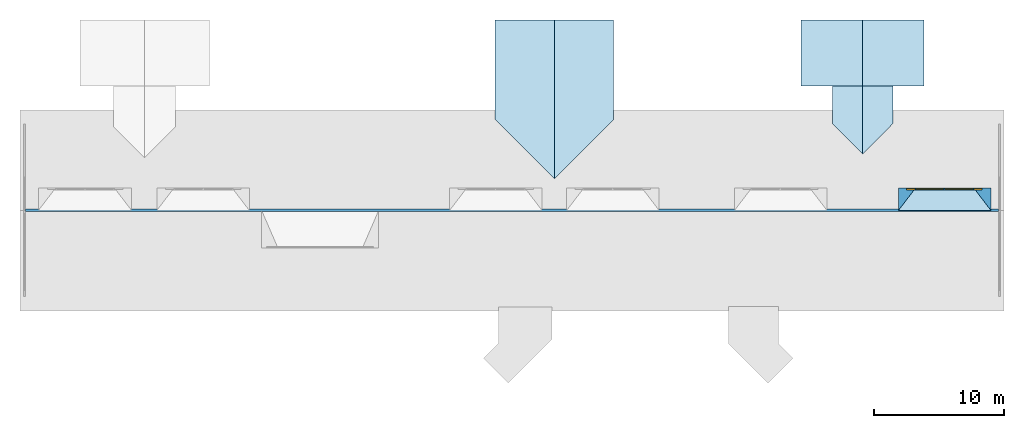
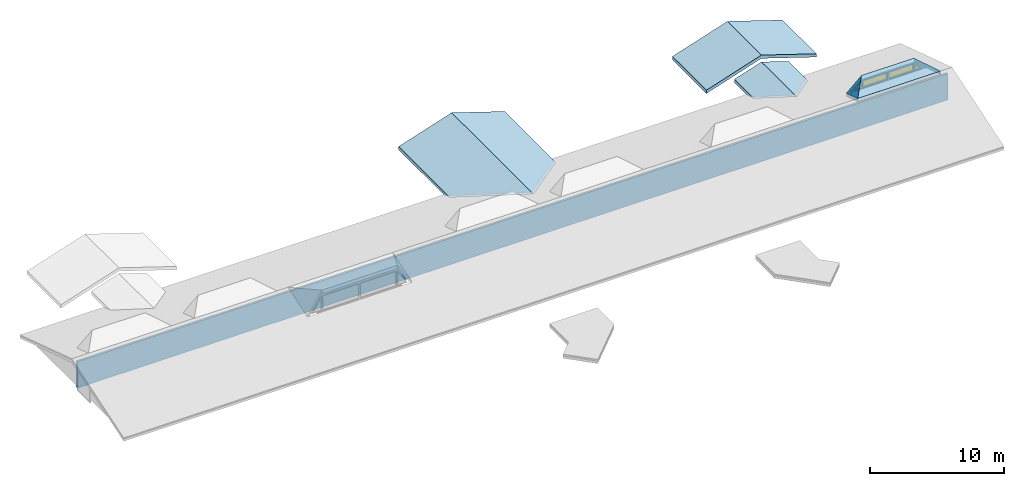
# One storey, part 5 of 7: 6 roofs, 4 windows, 2 walls, 4 openings.
"""IFC2X3 building model written with IfcOpenShell, lengths in millimetres."""

from ifc_helpers import new_model, entity, si_unit, converted_unit, derived_unit, money_unit, direction, frame, origin_with_axes, place, context, subcontext, project, spatial, open_shell, faceted_brep, surface_model, source, transform, mapped, material, type_object, element, fill, save


model = new_model("IFC2X3")

# Units and contexts
model_context = context("Model", 3, precision=0.01, world=origin_with_axes(), true_north=direction((0.0, 1.0)))
body_context = subcontext(model_context, "Body", "Model", "MODEL_VIEW")
ifc_project = project(units=[si_unit("LENGTHUNIT", "METRE", prefix="MILLI"), si_unit("AREAUNIT", "SQUARE_METRE"), si_unit("VOLUMEUNIT", "CUBIC_METRE"), converted_unit("PLANEANGLEUNIT", "DEGREE", entity("IfcPlaneAngleMeasure", 0.0174532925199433), si_unit("PLANEANGLEUNIT", "RADIAN"), dimensions=[0, 0, 0, 0, 0, 0, 0]), money_unit("USD"), converted_unit("TIMEUNIT", "Year", entity("IfcTimeMeasure", 31557600.0), si_unit("TIMEUNIT", "SECOND"), dimensions=[0, 0, 1, 0, 0, 0, 0]), si_unit("MASSUNIT", "GRAM", prefix="KILO"), si_unit("THERMODYNAMICTEMPERATUREUNIT", "DEGREE_CELSIUS"), si_unit("LUMINOUSINTENSITYUNIT", "LUMEN"), si_unit("ENERGYUNIT", "JOULE", prefix="MEGA"), derived_unit("THERMALCONDUCTANCEUNIT", [(si_unit("POWERUNIT", "WATT"), 1), (si_unit("LENGTHUNIT", "METRE"), -1), (si_unit("THERMODYNAMICTEMPERATUREUNIT", "KELVIN"), -1)]), derived_unit("SPECIFICHEATCAPACITYUNIT", [(si_unit("ENERGYUNIT", "JOULE"), 1), (si_unit("MASSUNIT", "GRAM", prefix="KILO"), -1), (si_unit("THERMODYNAMICTEMPERATUREUNIT", "KELVIN"), -1)]), derived_unit("MASSDENSITYUNIT", [(si_unit("MASSUNIT", "GRAM", prefix="KILO"), 1), (si_unit("VOLUMEUNIT", "CUBIC_METRE"), -1)])], contexts=[model_context])

# Site, building, storey
site_placement = place(None, origin_with_axes())
site = spatial("IfcSite", under=ifc_project, at=site_placement, Name="Site", CompositionType="ELEMENT")
building_placement = place(site_placement, origin_with_axes())
building = spatial("IfcBuilding", under=site, at=building_placement, Name="Building", CompositionType="ELEMENT")
storey_placement = place(building_placement, frame((0.0, 0.0, 5900.0), z_axis=(0.0, 0.0, 1.0), x_axis=(1.0, 0.0, 0.0)))
storey = spatial("IfcBuildingStorey", under=building, at=storey_placement, Name="TAK", CompositionType="ELEMENT", Elevation=5900.0)

# Wall
ifc_material_1 = material(Name="GENERIC - INTERNAL FILLER")
wall_type_1 = type_object("IfcWallType", Name="GENERIC - INTERNAL FILLER 200", PredefinedType="NOTDEFINED")
wall_1_placement = place(storey_placement, frame((-2400.260572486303, 14600.0, -299.9999999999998), z_axis=(0.0, 0.0, 1.0), x_axis=(1.0, 0.0, 0.0)))
element("IfcWall", 1, at=wall_1_placement, inside=storey, type_object=wall_type_1, material=ifc_material_1, Name="SW - 001", context=body_context, shape_type="Brep", body=[
    faceted_brep([(74790.2605724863, 0.0, 0.0), (72840.2605724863, 0.0, 0.0), (72840.2605724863, 0.0, 2400.0), (74790.26057248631, 0.0, 2400.0), (72660.2605724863, -0.1250236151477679, 0.0), (72840.2605724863, -0.1250236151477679, 0.0), (74790.2605724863, -199.9999999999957, 0.0), (0.0, -199.9999999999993, 0.0), (0.0, 0.0, 0.0), (2310.2605724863, 0.0, 0.0), (2310.260572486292, -0.1250236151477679, 0.0), (2490.260572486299, -0.1250236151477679, 0.0), (2490.260572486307, 0.0, 0.0), (6810.260572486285, 0.0, 0.0), (6810.260572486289, -0.1250236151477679, 0.0), (6990.260572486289, -0.1250236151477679, 0.0), (6990.260572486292, 0.0, 0.0), (11310.26057248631, 0.0, 0.0), (11310.2605724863, -0.1250236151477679, 0.0), (11490.2605724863, -0.1250236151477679, 0.0), (11490.26057248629, 0.0, 0.0), (15810.2605724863, 0.0, 0.0), (15810.2605724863, -0.1250236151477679, 0.0), (15990.2605724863, -0.1250236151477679, 0.0), (15990.26057248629, 0.0, 0.0), (20310.26057248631, 0.0, 0.0), (20310.26057248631, -0.1250236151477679, 0.0), (20490.26057248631, -0.1250236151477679, 0.0), (20490.26057248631, 0.0, 0.0), (29310.2605724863, 0.0, 0.0), (29310.2605724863, -0.1250236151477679, 0.0), (29490.2605724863, -0.1250236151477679, 0.0), (29490.26057248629, 0.0, 0.0), (33810.2605724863, 0.0, 0.0), (33810.2605724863, -0.1250236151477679, 0.0), (33990.2605724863, -0.1250236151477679, 0.0), (33990.2605724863, 0.0, 0.0), (38310.2605724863, 0.0, 0.0), (38310.2605724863, -0.1250236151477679, 0.0), (38490.2605724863, -0.1250236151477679, 0.0), (38490.2605724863, 0.0, 0.0), (42810.2605724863, 0.0, 0.0), (42810.2605724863, -0.1250236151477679, 0.0), (42990.2605724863, -0.1250236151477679, 0.0), (42990.2605724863, 0.0, 0.0), (47310.26057248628, 0.0, 0.0), (47310.26057248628, -0.1250236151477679, 0.0), (47490.26057248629, -0.1250236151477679, 0.0), (47490.26057248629, 0.0, 0.0), (51660.26057248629, 0.0, 0.0), (51660.26057248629, -0.1250236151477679, 0.0), (51840.2605724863, -0.1250236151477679, 0.0), (51840.2605724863, 0.0, 0.0), (55860.26057248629, 0.0, 0.0), (55860.26057248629, -0.1250236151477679, 0.0), (56040.2605724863, -0.1250236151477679, 0.0), (56040.2605724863, 0.0, 0.0), (60060.2605724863, 0.0, 0.0), (60060.2605724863, -0.1250236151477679, 0.0), (60240.2605724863, -0.1250236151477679, 0.0), (60240.2605724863, 0.0, 0.0), (64260.26057248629, 0.0, 0.0), (64260.26057248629, -0.1250236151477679, 0.0), (64440.2605724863, -0.1250236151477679, 0.0), (64440.2605724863, 0.0, 0.0), (68460.26057248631, 0.0, 0.0), (68460.26057248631, -0.1250236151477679, 0.0), (68640.26057248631, -0.1250236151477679, 0.0), (68640.26057248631, 0.0, 0.0), (72660.2605724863, 0.0, 0.0), (72840.2605724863, -0.1250236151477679, 2400.0), (72660.2605724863, -0.1250236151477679, 2400.0), (72660.2605724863, 0.0, 2400.0), (68640.26057248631, 0.0, 2400.0), (68640.26057248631, -0.1250236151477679, 2400.0), (68460.26057248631, -0.1250236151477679, 2400.0), (68460.26057248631, 0.0, 2400.0), (64440.2605724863, 0.0, 2400.0), (64440.2605724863, -0.1250236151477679, 2400.0), (64260.26057248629, -0.1250236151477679, 2400.0), (64260.26057248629, 0.0, 2400.0), (60240.2605724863, 0.0, 2400.0), (60240.2605724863, -0.1250236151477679, 2400.0), (60060.2605724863, -0.1250236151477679, 2400.0), (60060.2605724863, 0.0, 2400.0), (56040.2605724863, 0.0, 2400.0), (56040.2605724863, -0.1250236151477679, 2400.0), (55860.26057248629, -0.1250236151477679, 2400.0), (55860.26057248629, 0.0, 2400.0), (51840.2605724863, 0.0, 2400.0), (51840.2605724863, -0.1250236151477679, 2400.0), (51660.26057248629, -0.1250236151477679, 2400.0), (51660.26057248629, 0.0, 2400.0), (47490.26057248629, 0.0, 2400.0), (47490.26057248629, -0.1250236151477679, 2400.0), (47310.26057248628, -0.1250236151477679, 2400.0), (47310.26057248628, 0.0, 2400.0), (42990.2605724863, 0.0, 2400.0), (42990.2605724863, -0.1250236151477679, 2400.0), (42810.2605724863, -0.1250236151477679, 2400.0), (42810.2605724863, 0.0, 2400.0), (38490.2605724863, 0.0, 2400.0), (38490.2605724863, -0.1250236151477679, 2400.0), (38310.2605724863, -0.1250236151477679, 2400.0), (38310.2605724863, 0.0, 2400.0), (33990.2605724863, 0.0, 2400.0), (33990.2605724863, -0.1250236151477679, 2400.0), (33810.2605724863, -0.1250236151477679, 2400.0), (33810.2605724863, 0.0, 2400.0), (29490.2605724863, 0.0, 2400.0), (29490.2605724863, -0.1250236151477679, 2400.0), (29310.2605724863, -0.1250236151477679, 2400.0), (29310.2605724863, 0.0, 2400.0), (20490.26057248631, 0.0, 2400.0), (20490.26057248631, -0.1250236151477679, 2400.0), (20310.26057248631, -0.1250236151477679, 2400.0), (20310.26057248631, 0.0, 2400.0), (15990.2605724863, 0.0, 2400.0), (15990.2605724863, -0.1250236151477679, 2400.0), (15810.2605724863, -0.1250236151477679, 2400.0), (15810.2605724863, 0.0, 2400.0), (11490.2605724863, 0.0, 2400.0), (11490.2605724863, -0.1250236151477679, 2400.0), (11310.2605724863, -0.1250236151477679, 2400.0), (11310.2605724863, 0.0, 2400.0), (6990.260572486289, 0.0, 2400.0), (6990.260572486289, -0.1250236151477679, 2400.0), (6810.260572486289, -0.1250236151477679, 2400.0), (6810.260572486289, 0.0, 2400.0), (2490.260572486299, 0.0, 2400.0), (2490.260572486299, -0.1250236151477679, 2400.0), (2310.260572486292, -0.1250236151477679, 2400.0), (2310.260572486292, 0.0, 2400.0), (0.0, 0.0, 2400.0), (0.0, -199.9999999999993, 2400.0), (74790.26057248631, -199.9999999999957, 2400.0)], [[[0, 1, 2, 3]], [[4, 5, 1, 0, 6, 7, 8, 9, 10, 11, 12, 13, 14, 15, 16, 17, 18, 19, 20, 21, 22, 23, 24, 25, 26, 27, 28, 29, 30, 31, 32, 33, 34, 35, 36, 37, 38, 39, 40, 41, 42, 43, 44, 45, 46, 47, 48, 49, 50, 51, 52, 53, 54, 55, 56, 57, 58, 59, 60, 61, 62, 63, 64, 65, 66, 67, 68, 69]], [[5, 70, 2, 1]], [[70, 71, 72, 73, 74, 75, 76, 77, 78, 79, 80, 81, 82, 83, 84, 85, 86, 87, 88, 89, 90, 91, 92, 93, 94, 95, 96, 97, 98, 99, 100, 101, 102, 103, 104, 105, 106, 107, 108, 109, 110, 111, 112, 113, 114, 115, 116, 117, 118, 119, 120, 121, 122, 123, 124, 125, 126, 127, 128, 129, 130, 131, 132, 133, 134, 135, 3, 2]], [[6, 0, 3, 135]], [[4, 71, 70, 5]], [[6, 135, 134, 7]], [[8, 7, 134, 133]], [[133, 132, 9, 8]], [[10, 9, 132, 131]], [[10, 131, 130, 11]], [[11, 130, 129, 12]], [[129, 128, 13, 12]], [[14, 13, 128, 127]], [[14, 127, 126, 15]], [[15, 126, 125, 16]], [[125, 124, 17, 16]], [[18, 17, 124, 123]], [[18, 123, 122, 19]], [[19, 122, 121, 20]], [[121, 120, 21, 20]], [[22, 21, 120, 119]], [[22, 119, 118, 23]], [[23, 118, 117, 24]], [[117, 116, 25, 24]], [[26, 25, 116, 115]], [[26, 115, 114, 27]], [[27, 114, 113, 28]], [[113, 112, 29, 28]], [[30, 29, 112, 111]], [[30, 111, 110, 31]], [[31, 110, 109, 32]], [[109, 108, 33, 32]], [[34, 33, 108, 107]], [[34, 107, 106, 35]], [[35, 106, 105, 36]], [[105, 104, 37, 36]], [[38, 37, 104, 103]], [[38, 103, 102, 39]], [[39, 102, 101, 40]], [[101, 100, 41, 40]], [[42, 41, 100, 99]], [[42, 99, 98, 43]], [[43, 98, 97, 44]], [[97, 96, 45, 44]], [[46, 45, 96, 95]], [[46, 95, 94, 47]], [[47, 94, 93, 48]], [[93, 92, 49, 48]], [[50, 49, 92, 91]], [[50, 91, 90, 51]], [[51, 90, 89, 52]], [[89, 88, 53, 52]], [[54, 53, 88, 87]], [[54, 87, 86, 55]], [[55, 86, 85, 56]], [[85, 84, 57, 56]], [[58, 57, 84, 83]], [[58, 83, 82, 59]], [[59, 82, 81, 60]], [[81, 80, 61, 60]], [[62, 61, 80, 79]], [[62, 79, 78, 63]], [[63, 78, 77, 64]], [[77, 76, 65, 64]], [[66, 65, 76, 75]], [[66, 75, 74, 67]], [[67, 74, 73, 68]], [[73, 72, 69, 68]], [[4, 69, 72, 71]]]),
])

# Wall, openings, windows
ifc_material_2 = material(Name="GENERIC - STRUCTURAL")
wall_type_2 = type_object("IfcWallType", Name="GENERIC - STRUCTURAL 120", PredefinedType="NOTDEFINED")
wall_2_placement = place(storey_placement, frame((64983.0196285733, 16175.0, 1912.173367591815), z_axis=(0.0, 0.0, 1.0), x_axis=(1.0, 0.0, 0.0)))
wall_2 = element("IfcWall", 2, at=wall_2_placement, inside=storey, type_object=wall_type_2, material=ifc_material_2, Name="SW - 001", context=body_context, shape_type="Brep", body=[
    faceted_brep([(6533.960738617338, -119.9999920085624, 2.462064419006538e-05), (5627.866818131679, -120.000000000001, 809.7789812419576), (906.0939245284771, -120.000000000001, 809.7789812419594), (-1.107774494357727e-05, -119.9999959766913, 1.239533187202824e-05), (3166.980371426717, -119.9999920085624, 99.99999999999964), (1066.980371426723, -119.9999920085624, 99.99999999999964), (1066.980371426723, -119.9999920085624, 749.9999999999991), (3166.980371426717, -119.9999920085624, 749.9999999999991), (5416.980371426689, -120.000000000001, 749.9999999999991), (5416.980371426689, -120.000000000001, 99.99999999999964), (3316.980371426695, -120.000000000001, 99.99999999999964), (3316.980371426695, -120.000000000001, 749.9999999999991), (348.0179922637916, -120.000000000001, 99.99999999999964), (980.517992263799, -120.000000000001, 749.9999999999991), (981.0179922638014, -120.000000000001, 99.99999999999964), (5516.980371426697, -119.9999959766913, 99.99999999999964), (5517.4803714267, -119.9999959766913, 749.9999999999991), (6149.980371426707, -119.9999959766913, 99.99999999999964), (6490.37813879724, 0.0, 0.0), (5536.098724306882, 0.0, 852.8424798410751), (997.862018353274, 0.0, 852.8424798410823), (43.5826038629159, 0.0, 0.0), (3166.980371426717, 0.0, 99.99999999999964), (1066.980371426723, 0.0, 99.99999999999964), (1066.980371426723, 0.0, 749.9999999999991), (3166.980371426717, 0.0, 749.9999999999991), (5416.980371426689, 0.0, 749.9999999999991), (5416.980371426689, 0.0, 99.99999999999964), (3316.980371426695, 0.0, 99.99999999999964), (3316.980371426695, 0.0, 749.9999999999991), (980.517992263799, 0.0, 749.9999999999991), (348.0179922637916, 0.0, 99.99999999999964), (981.0179922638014, 0.0, 99.99999999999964), (5516.980371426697, 0.0, 99.99999999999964), (5517.4803714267, 0.0, 749.9999999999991), (6149.980371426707, 0.0, 99.99999999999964)], [[[0, 1, 2, 3], [4, 5, 6, 7], [8, 9, 10, 11], [12, 13, 14], [15, 16, 17]], [[1, 0, 18, 19]], [[1, 19, 20, 2]], [[20, 21, 3, 2]], [[18, 0, 3, 21]], [[4, 22, 23, 5]], [[5, 23, 24, 6]], [[6, 24, 25, 7]], [[7, 25, 22, 4]], [[9, 8, 26, 27]], [[10, 9, 27, 28]], [[11, 10, 28, 29]], [[8, 11, 29, 26]], [[30, 13, 12, 31]], [[32, 14, 13, 30]], [[31, 12, 14, 32]], [[33, 34, 16, 15]], [[34, 35, 17, 16]], [[35, 33, 15, 17]], [[19, 18, 21, 20], [24, 23, 22, 25], [26, 29, 28, 27], [30, 31, 32], [34, 33, 35]]]),
])
opening_1_placement = place(wall_2_placement, frame((2116.98037142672, 0.0, 99.99999999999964), z_axis=(0.0, 0.0, 1.0), x_axis=(1.0, 0.0, 0.0)))
opening_1 = element("IfcOpeningElement", 3, at=opening_1_placement, cuts=wall_2, Name="WD - 001", context=body_context, shape_type="Brep", body=[
    faceted_brep([(-1049.999999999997, -121.0000000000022, 649.9999999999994), (-1049.999999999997, -121.0000000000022, 0.0), (1049.999999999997, -121.0000000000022, 0.0), (1049.999999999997, -121.0000000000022, 649.9999999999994), (-1049.999999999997, 1.000000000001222, 649.9999999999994), (-1049.999999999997, 1.000000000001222, 0.0), (1049.999999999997, 1.000000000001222, 0.0), (1049.999999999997, 1.000000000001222, 649.9999999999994)], [[[0, 1, 2, 3]], [[4, 5, 1, 0]], [[5, 6, 2, 1]], [[6, 7, 3, 2]], [[7, 4, 0, 3]], [[6, 5, 4, 7]]]),
])
opening_2_placement = place(wall_2_placement, frame((5833.480371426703, 0.0, 99.99999999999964), z_axis=(0.0, 0.0, 1.0), x_axis=(1.0, 0.0, 0.0)))
opening_2 = element("IfcOpeningElement", 4, at=opening_2_placement, cuts=wall_2, Name="WD - 001", context=body_context, shape_type="Brep", body=[
    faceted_brep([(-316.0000000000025, -121.0000000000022, 649.9999999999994), (-316.5000000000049, -121.0000000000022, 0.0), (316.5000000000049, -121.0000000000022, 0.0), (-316.0000000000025, 1.000000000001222, 649.9999999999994), (-316.5000000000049, 1.000000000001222, 0.0), (316.5000000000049, 1.000000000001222, 0.0)], [[[0, 1, 2]], [[3, 4, 1, 0]], [[4, 5, 2, 1]], [[5, 3, 0, 2]], [[5, 4, 3]]]),
])
opening_3_placement = place(wall_2_placement, frame((664.5179922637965, 0.0, 99.99999999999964), z_axis=(0.0, 0.0, 1.0), x_axis=(1.0, 0.0, 0.0)))
opening_3 = element("IfcOpeningElement", 5, at=opening_3_placement, cuts=wall_2, Name="WD - 001", context=body_context, shape_type="Brep", body=[
    faceted_brep([(316.0000000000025, -121.0000000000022, 649.9999999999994), (-316.5000000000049, -121.0000000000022, 0.0), (316.5000000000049, -121.0000000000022, 0.0), (316.0000000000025, 1.000000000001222, 649.9999999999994), (-316.5000000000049, 1.000000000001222, 0.0), (316.5000000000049, 1.000000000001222, 0.0)], [[[0, 1, 2]], [[3, 4, 1, 0]], [[4, 5, 2, 1]], [[5, 3, 0, 2]], [[5, 4, 3]]]),
])
opening_4_placement = place(wall_2_placement, frame((4366.980371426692, 0.0, 99.99999999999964), z_axis=(0.0, 0.0, 1.0), x_axis=(1.0, 0.0, 0.0)))
opening_4 = element("IfcOpeningElement", 6, at=opening_4_placement, cuts=wall_2, Name="WD - 001", context=body_context, shape_type="Brep", body=[
    faceted_brep([(-1049.999999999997, -121.0000000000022, 649.9999999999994), (-1049.999999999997, -121.0000000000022, 0.0), (1049.999999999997, -121.0000000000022, 0.0), (1049.999999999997, -121.0000000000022, 649.9999999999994), (-1049.999999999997, 1.000000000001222, 649.9999999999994), (-1049.999999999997, 1.000000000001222, 0.0), (1049.999999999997, 1.000000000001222, 0.0), (1049.999999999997, 1.000000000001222, 649.9999999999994)], [[[0, 1, 2, 3]], [[4, 5, 1, 0]], [[5, 6, 2, 1]], [[6, 7, 3, 2]], [[7, 4, 0, 3]], [[6, 5, 4, 7]]]),
])
window_style_1 = type_object("IfcWindowStyle", Name="Vindu variabelt", ConstructionType="NOTDEFINED", OperationType="SINGLE_PANEL", ParameterTakesPrecedence=False, Sizeable=False)
shared_shape_1 = source(origin_with_axes(), body_context, "Body", "SurfaceModel", [
    faceted_brep([(-984.0000000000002, -50.00000000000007, 584.0), (-984.0000000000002, 0.0, 584.0), (-1050.0, 0.0, 584.0), (-1050.0, -50.00000000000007, 584.0), (-984.0000000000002, -50.00000000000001, 66.0), (-984.0000000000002, 0.0, 66.0), (-1050.0, 0.0, 66.0), (-1050.0, -50.00000000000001, 66.0)], [[[0, 1, 2, 3]], [[4, 5, 1, 0]], [[1, 5, 6, 2]], [[3, 2, 6, 7]], [[0, 3, 7, 4]], [[7, 6, 5, 4]]]),
    faceted_brep([(984.0000000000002, -50.00000000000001, 66.0), (984.0000000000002, 0.0, 66.0), (1050.0, 0.0, 66.0), (1050.0, -50.00000000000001, 66.0), (984.0000000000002, -50.00000000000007, 584.0), (984.0000000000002, 0.0, 584.0), (1050.0, 0.0, 584.0), (1050.0, -50.00000000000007, 584.0)], [[[0, 1, 2, 3]], [[4, 5, 1, 0]], [[1, 5, 6, 2]], [[3, 2, 6, 7]], [[0, 3, 7, 4]], [[7, 6, 5, 4]]]),
    faceted_brep([(-984.0000000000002, -50.00000000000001, 66.0), (-984.0000000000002, 0.0, 66.0), (-1050.0, 0.0, 66.0), (-1050.0, -50.00000000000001, 66.0), (984.0000000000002, -50.00000000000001, 66.0), (984.0000000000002, 0.0, 66.0), (1050.0, 0.0, 66.0), (1050.0, 0.0, 0.0), (-1050.0, 0.0, 0.0), (-1050.0, -50.0, 0.0), (1050.0, -50.0, 0.0), (1050.0, -50.00000000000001, 66.0)], [[[0, 1, 2, 3]], [[4, 5, 1, 0]], [[1, 5, 6, 7, 8, 2]], [[3, 2, 8, 9]], [[0, 3, 9, 10, 11, 4]], [[11, 6, 5, 4]], [[10, 7, 6, 11]], [[9, 8, 7, 10]]]),
    faceted_brep([(984.0000000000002, -50.00000000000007, 584.0), (984.0000000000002, 0.0, 584.0), (1050.0, 0.0, 584.0), (1050.0, -50.00000000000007, 584.0), (-984.0000000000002, -50.00000000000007, 584.0), (-984.0000000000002, 0.0, 584.0), (-1050.0, 0.0, 584.0), (-1050.0, 0.0, 650.0), (1050.0, 0.0, 650.0), (1050.0, -50.00000000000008, 650.0), (-1050.0, -50.00000000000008, 650.0), (-1050.0, -50.00000000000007, 584.0)], [[[0, 1, 2, 3]], [[4, 5, 1, 0]], [[1, 5, 6, 7, 8, 2]], [[3, 2, 8, 9]], [[0, 3, 9, 10, 11, 4]], [[11, 6, 5, 4]], [[10, 7, 6, 11]], [[9, 8, 7, 10]]]),
    surface_model("IfcShellBasedSurfaceModel", [(-984.0000000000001, -35.00000000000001, 66.0), (984.0000000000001, -35.00000000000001, 66.0), (984.0000000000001, -35.00000000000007, 583.9999999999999), (-984.0000000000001, -35.00000000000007, 583.9999999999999)], [open_shell([[[0, 1, 2, 3]]])]),
    surface_model("IfcShellBasedSurfaceModel", [(-984.0000000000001, -15.00000000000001, 66.0), (-984.0000000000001, -15.00000000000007, 583.9999999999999), (984.0000000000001, -15.00000000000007, 583.9999999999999), (984.0000000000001, -15.00000000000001, 66.0)], [open_shell([[[0, 1, 2, 3]]])]),
])
window_1_placement = place(opening_1_placement, frame((-1049.999999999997, 0.0, 0.0), z_axis=(0.0, 0.0, 1.0), x_axis=(1.0, 0.0, 0.0)))
window_1 = element("IfcWindow", 7, at=window_1_placement, inside=storey, type_object=window_style_1, Name="WD - 001", ObjectType="WINDOW", OverallHeight=650.0, OverallWidth=2100.0, context=body_context, shape_type="MappedRepresentation", body=[
    mapped(shared_shape_1, transform((1049.999999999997, 0.0, 0.0))),
])
fill(opening_1, window_1)
window_2_placement = place(opening_4_placement, frame((-1049.999999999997, 0.0, 0.0), z_axis=(0.0, 0.0, 1.0), x_axis=(1.0, 0.0, 0.0)))
window_2 = element("IfcWindow", 8, at=window_2_placement, inside=storey, type_object=window_style_1, Name="WD - 001", ObjectType="WINDOW", OverallHeight=650.0, OverallWidth=2100.0, context=body_context, shape_type="MappedRepresentation", body=[
    mapped(shared_shape_1, transform((1049.999999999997, 0.0, 0.0))),
])
fill(opening_4, window_2)
window_style_2 = type_object("IfcWindowStyle", Name="Vindu trekantet", ConstructionType="NOTDEFINED", OperationType="USERDEFINED", ParameterTakesPrecedence=False, Sizeable=False)
shared_shape_2 = source(origin_with_axes(), body_context, "Body", "SurfaceModel", [
    faceted_brep([(316.5, -92.0, 0.0), (160.1867302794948, -92.0, 66.0), (160.1867302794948, 0.0, 66.0), (316.5, 0.0, 0.0), (-316.0, -92.00000000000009, 649.9999999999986), (-250.1248542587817, -92.00000000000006, 487.6640789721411), (-250.1248542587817, 0.0, 487.6640789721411), (-316.0, 0.0, 649.9999999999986)], [[[0, 1, 2, 3]], [[0, 4, 5, 1]], [[1, 5, 6, 2]], [[3, 2, 6, 7]], [[4, 0, 3, 7]], [[5, 4, 7, 6]]]),
    faceted_brep([(-316.0, -92.00000000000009, 649.9999999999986), (-250.1248542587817, -92.00000000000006, 487.6640789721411), (-250.1248542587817, 0.0, 487.6640789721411), (-316.0, 0.0, 649.9999999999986), (-316.5, -92.0, 0.0), (-250.4492112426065, -92.0, 66.0), (-250.4492112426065, 0.0, 66.0), (-316.5, 0.0, 0.0)], [[[0, 1, 2, 3]], [[0, 4, 5, 1]], [[1, 5, 6, 2]], [[3, 2, 6, 7]], [[4, 0, 3, 7]], [[5, 4, 7, 6]]]),
    faceted_brep([(316.5, -92.0, 0.0), (-316.5, -92.0, 0.0), (-316.5, 0.0, 0.0), (316.5, 0.0, 0.0), (160.1867302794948, -92.0, 66.0), (-250.4492112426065, -92.0, 66.0), (-250.4492112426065, 0.0, 66.0), (160.1867302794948, 0.0, 66.0)], [[[0, 1, 2, 3]], [[0, 4, 5, 1]], [[1, 5, 6, 2]], [[3, 2, 6, 7]], [[4, 0, 3, 7]], [[5, 4, 7, 6]]]),
    surface_model("IfcShellBasedSurfaceModel", [(160.1867302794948, -56.0, 66.0), (-250.1248542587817, -56.00000000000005, 487.664078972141), (-250.4492112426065, -56.0, 66.0)], [open_shell([[[0, 1, 2]]])]),
    surface_model("IfcShellBasedSurfaceModel", [(160.1867302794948, -36.00000000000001, 66.0), (-250.4492112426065, -36.00000000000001, 66.0), (-250.1248542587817, -36.00000000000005, 487.664078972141)], [open_shell([[[0, 1, 2]]])]),
])
window_3_placement = place(opening_2_placement, frame((-316.5000000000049, 0.0, 0.0), z_axis=(0.0, 0.0, 1.0), x_axis=(1.0, 0.0, 0.0)))
window_3 = element("IfcWindow", 9, at=window_3_placement, inside=storey, type_object=window_style_2, Name="WD - 001", ObjectType="WINDOW", OverallHeight=650.0, OverallWidth=633.0, context=body_context, shape_type="MappedRepresentation", body=[
    mapped(shared_shape_2, transform((316.5000000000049, 0.0, 0.0))),
])
fill(opening_2, window_3)
shared_shape_3 = source(origin_with_axes(), body_context, "Body", "SurfaceModel", [
    faceted_brep([(-316.5, -92.0, 0.0), (-316.5, 0.0, 0.0), (-160.1867302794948, 0.0, 66.0), (-160.1867302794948, -92.0, 66.0), (316.0, -92.00000000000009, 649.9999999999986), (316.0, 0.0, 649.9999999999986), (250.1248542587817, 0.0, 487.6640789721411), (250.1248542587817, -92.00000000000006, 487.6640789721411)], [[[0, 1, 2, 3]], [[4, 5, 1, 0]], [[1, 5, 6, 2]], [[3, 2, 6, 7]], [[0, 3, 7, 4]], [[7, 6, 5, 4]]]),
    faceted_brep([(316.0, -92.00000000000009, 649.9999999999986), (316.0, 0.0, 649.9999999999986), (250.1248542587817, 0.0, 487.6640789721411), (250.1248542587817, -92.00000000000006, 487.6640789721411), (316.5, -92.0, 0.0), (316.5, 0.0, 0.0), (250.4492112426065, 0.0, 66.0), (250.4492112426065, -92.0, 66.0)], [[[0, 1, 2, 3]], [[4, 5, 1, 0]], [[1, 5, 6, 2]], [[3, 2, 6, 7]], [[0, 3, 7, 4]], [[7, 6, 5, 4]]]),
    faceted_brep([(-316.5, -92.0, 0.0), (-316.5, 0.0, 0.0), (316.5, 0.0, 0.0), (316.5, -92.0, 0.0), (-160.1867302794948, -92.0, 66.0), (-160.1867302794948, 0.0, 66.0), (250.4492112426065, 0.0, 66.0), (250.4492112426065, -92.0, 66.0)], [[[0, 1, 2, 3]], [[4, 5, 1, 0]], [[1, 5, 6, 2]], [[3, 2, 6, 7]], [[0, 3, 7, 4]], [[7, 6, 5, 4]]]),
    surface_model("IfcShellBasedSurfaceModel", [(-160.1867302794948, -56.0, 66.0), (250.4492112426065, -56.0, 66.0), (250.1248542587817, -56.00000000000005, 487.664078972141)], [open_shell([[[0, 1, 2]]])]),
    surface_model("IfcShellBasedSurfaceModel", [(-160.1867302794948, -36.00000000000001, 66.0), (250.1248542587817, -36.00000000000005, 487.664078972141), (250.4492112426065, -36.00000000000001, 66.0)], [open_shell([[[0, 1, 2]]])]),
])
window_4_placement = place(opening_3_placement, frame((-316.5000000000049, 0.0, 0.0), z_axis=(0.0, 0.0, 1.0), x_axis=(1.0, 0.0, 0.0)))
window_4 = element("IfcWindow", 10, at=window_4_placement, inside=storey, type_object=window_style_2, Name="WD - 001", ObjectType="WINDOW", OverallHeight=650.0, OverallWidth=633.0, context=body_context, shape_type="MappedRepresentation", body=[
    mapped(shared_shape_3, transform((316.5000000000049, 0.0, 0.0))),
])
fill(opening_3, window_4)

# Roofs
ifc_material_3 = material(Name="Membrane - Waterproof")
roof_1_placement = place(storey_placement, frame((61948.30100832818, 26600.16937095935, -200.0000000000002), z_axis=(0.0, 0.0, 1.0), x_axis=(1.0, 0.0, 0.0)))
element("IfcRoof", 11, at=roof_1_placement, inside=storey, material=ifc_material_3, Name="RT - 001", ShapeType="NOTDEFINED", context=body_context, shape_type="Brep", body=[
    faceted_brep([(-4725.015974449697, 2530.343551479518, 234.4588214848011), (-4725.015974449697, -2530.343551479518, 234.4588214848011), (1.698607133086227, -2530.34355225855, 1770.261792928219), (1.698607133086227, 2530.343551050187, 1770.261792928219), (-4725.015974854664, 2530.343551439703, -65.54118477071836), (-4725.015974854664, -2530.343551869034, -65.54118477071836), (1.69860736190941, -2530.343552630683, 1470.261786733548), (4725.01597444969, -2530.343551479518, 235.5626439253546), (4725.01597444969, 2530.343551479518, 235.5626439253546), (1.69860736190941, 2530.343550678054, 1470.261786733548), (4725.01597433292, -2530.34355169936, -64.43736215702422), (4725.01597433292, 2530.343551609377, -64.43736215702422)], [[[0, 1, 2, 3]], [[0, 4, 5, 1]], [[1, 5, 6, 2]], [[7, 8, 3, 2]], [[4, 0, 3, 9]], [[5, 4, 9, 6]], [[10, 7, 2, 6]], [[7, 10, 11, 8]], [[8, 11, 9, 3]], [[11, 10, 6, 9]]]),
])
roof_2_placement = place(storey_placement, frame((38250.01667768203, 21346.96807794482, -143.1387994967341), z_axis=(0.0, 0.0, 1.0), x_axis=(1.0, 0.0, 0.0)))
element("IfcRoof", 12, at=roof_2_placement, inside=storey, material=ifc_material_3, Name="RT - 001", ShapeType="NOTDEFINED", context=body_context, shape_type="Brep", body=[
    faceted_brep([(4549.999779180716, 137.2320973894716, 235.0160299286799), (4549.9997793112, 873.1574466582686, -3.852656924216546), (4549.999779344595, 873.1574466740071, -64.98397055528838), (4549.999779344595, 7778.031919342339, -64.98397055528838), (4549.999779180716, 7778.031919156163, 235.0160299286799), (4361.856941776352, 873.1574466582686, -3.852656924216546), (-0.0001022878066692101, -4417.49083828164, 1713.400609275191), (-4549.999779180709, 137.2320030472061, 235.0160605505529), (-4549.999779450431, 873.1574466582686, -3.852656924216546), (-4361.857143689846, 873.1574466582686, -3.852656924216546), (-9.804274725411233e-05, -3493.227359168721, 1413.400610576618), (-4.734294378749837e-05, 7778.031918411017, 1413.400590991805), (-4.747438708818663e-05, 7778.031918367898, 1713.400591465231), (-4549.999779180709, 7778.031919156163, 235.0160605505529), (-4549.999779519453, 873.1574466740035, -64.98393999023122), (-4549.999779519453, 7778.031918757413, -64.98393999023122)], [[[0, 1, 2, 3, 4]], [[5, 1, 0, 6, 7, 8, 9, 10]], [[5, 2, 1]], [[5, 10, 11, 3, 2]], [[12, 4, 3, 11]], [[12, 6, 0, 4]], [[13, 7, 6, 12]], [[14, 8, 7, 13, 15]], [[8, 14, 9]], [[10, 9, 14, 15, 11]], [[11, 15, 13, 12]]]),
])
roof_3_placement = place(storey_placement, frame((61950.23036930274, 20709.23917360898, -41.85564083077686), z_axis=(0.0, 0.0, 1.0), x_axis=(1.0, 0.0, 0.0)))
element("IfcRoof", 13, at=roof_3_placement, inside=storey, material=ifc_material_3, Name="RT - 001", ShapeType="NOTDEFINED", context=body_context, shape_type="Brep", body=[
    faceted_brep([(2324.769604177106, 3360.586646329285, -64.97853989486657), (2324.769604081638, 3360.586646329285, 235.0190754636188), (2324.769604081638, 462.9105354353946, 235.0190754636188), (2324.769604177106, 1387.166671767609, -64.97853989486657), (-0.219676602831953, 3360.58664587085, 690.3933732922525), (-0.2307536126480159, 3360.58664486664, 690.3897737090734), (-0.2307536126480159, 3360.586644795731, 990.3939501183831), (-0.2290083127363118, -1864.307506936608, 990.3939501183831), (-2324.769604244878, 1387.208035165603, -64.99196574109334), (-0.219676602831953, -940.0422468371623, 690.3933733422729), (-2324.769604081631, 462.9336494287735, 235.0115730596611), (-2324.769604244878, 3360.586645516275, -64.99196574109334), (-2324.769604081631, 3360.586645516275, 235.0115730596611)], [[[0, 1, 2, 3]], [[0, 4, 5, 6, 1]], [[1, 6, 7, 2]], [[8, 9, 3, 2, 7, 10]], [[0, 3, 9, 4]], [[4, 9, 8, 11, 5]], [[6, 5, 11, 12]], [[6, 12, 10, 7]], [[12, 11, 8, 10]]]),
])
roof_4_placement = place(storey_placement, frame((71800.00000000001, 14500.06276148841, 2163.94370223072), z_axis=(0.0, 0.0, 1.0), x_axis=(-0.341371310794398, 0.9399285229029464, 0.0)))
element("IfcRoof", 14, at=roof_4_placement, inside=storey, material=ifc_material_3, Name="RT - 001", ShapeType="NOTDEFINED", context=body_context, shape_type="Brep", body=[
    faceted_brep([(1597.819497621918, -580.3098033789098, -251.7703346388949), (2041.602201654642, 641.5972763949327, 910.0437074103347), (0.0, 0.0, 300.0000000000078), (1597.819497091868, -580.3098036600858, -551.7703347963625), (2041.602201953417, 641.5972766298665, 610.0437077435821), (2.891749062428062e-07, -2.781206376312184e-07, -1.545608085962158e-07)], [[[0, 1, 2]], [[1, 0, 3, 4]], [[2, 1, 4, 5]], [[0, 2, 5, 3]], [[4, 3, 5]]]),
])
roof_5_placement = place(storey_placement, frame((64700.00000000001, 14500.06276148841, 2163.943702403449), z_axis=(0.0, 0.0, 1.0), x_axis=(0.3413713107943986, 0.9399285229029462, 0.0)))
element("IfcRoof", 15, at=roof_5_placement, inside=storey, material=ifc_material_3, Name="RT - 001", ShapeType="NOTDEFINED", context=body_context, shape_type="Brep", body=[
    faceted_brep([(0.0, 0.0, 300.0000000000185), (2041.602201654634, -641.5972763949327, 910.0437074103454), (1597.819497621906, 580.3098033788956, -251.7703346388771), (-3.58816976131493e-07, 2.699778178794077e-07, -1.468194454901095e-07), (2041.602201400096, -641.5972766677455, 610.0437077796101), (1597.819497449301, 580.3098036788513, -551.7703348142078)], [[[0, 1, 2]], [[1, 0, 3, 4]], [[2, 1, 4, 5]], [[0, 2, 5, 3]], [[4, 3, 5]]]),
])
roof_6_placement = place(storey_placement, frame((65987.14556518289, 16200.0, 2773.987409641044), z_axis=(0.0, 0.0, 1.0), x_axis=(1.0, 0.0, 0.0)))
element("IfcRoof", 16, at=roof_6_placement, inside=storey, material=ifc_material_3, Name="RT - 001", ShapeType="NOTDEFINED", context=body_context, shape_type="Brep", body=[
    faceted_brep([(4512.854434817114, 0.0, 300.0000000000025), (12.8544348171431, 0.0, 299.9999999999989), (-1287.145565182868, -1699.937238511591, -310.043707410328), (5812.854434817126, -1699.937238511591, -310.043707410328), (4512.854434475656, 3.664055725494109e-07, 2.521165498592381e-07), (12.85443448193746, 3.664055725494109e-07, 2.521165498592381e-07), (-1287.145565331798, -1699.937238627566, -610.0437073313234), (5812.854435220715, -1699.937238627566, -610.0437073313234)], [[[0, 1, 2, 3]], [[0, 4, 5, 1]], [[1, 5, 6, 2]], [[2, 6, 7, 3]], [[3, 7, 4, 0]], [[7, 6, 5, 4]]]),
])

save(model, "model.ifc")
